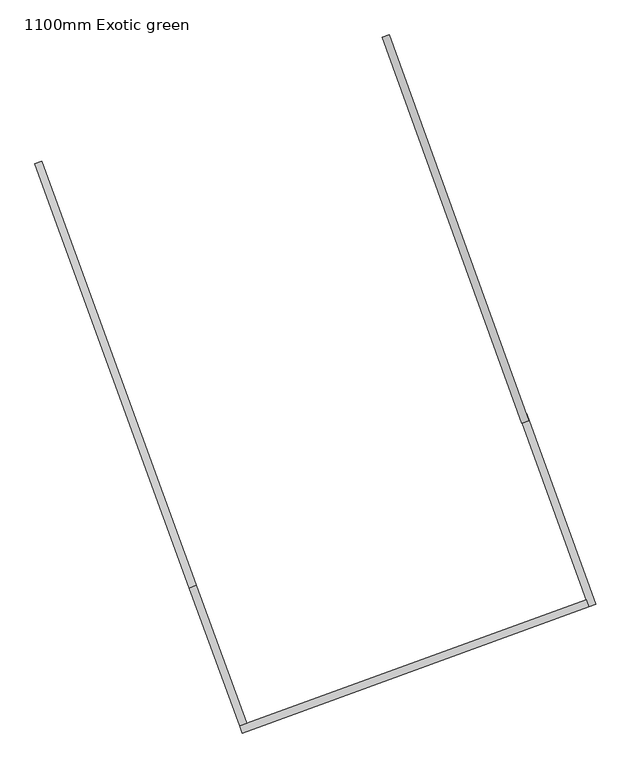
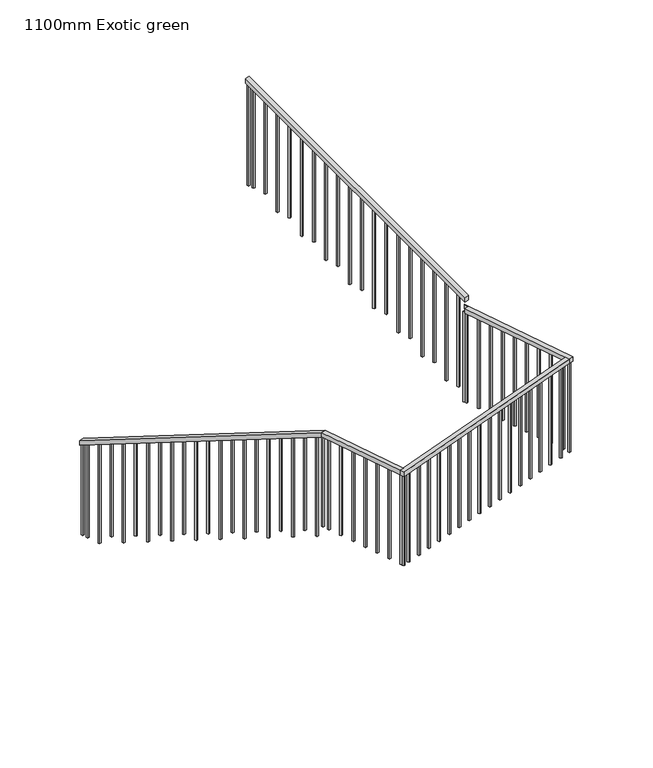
"""IFC4 building model written with IfcOpenShell, lengths in millimetres: railing geometry, 1100mm Exotic green."""

import ifcopenshell
import ifcopenshell.guid

model = None  # the IFC model being written
_history = None  # IfcOwnerHistory: only IFC2X3 demands one
_inside = {}  # id of a spatial element -> (the spatial element, [elements in it])
_under = {}  # id of a project, library or spatial element -> (it, [spatial elements below it])
_declared = {}  # id of a project -> (the project, [libraries it declares])
_typed = {}  # id of a type object -> (the type object, [elements of that type])
_made_of = {}  # id of a material, layer set ... -> (it, [elements and type objects made of it])


def new_model(schema):
    """Start an empty IFC model of exactly this schema.

    Asked for "IFC4X3", IfcOpenShell would pick the latest addendum, in which some entities
    have other attributes; the version numbers below select the first issue.
    IFC2X3 requires an IfcOwnerHistory on every rooted entity: one is made here for all.
    """
    global model, _history
    if schema == "IFC4X3":
        model = ifcopenshell.file(schema_version=(4, 3, 0, 0))
    else:
        model = ifcopenshell.file(schema=schema)
    _inside.clear()
    _under.clear()
    _declared.clear()
    _typed.clear()
    _made_of.clear()
    _history = None
    if model.schema == "IFC2X3":
        org = make("IfcOrganization", Name="unknown")
        user = make(
            "IfcPersonAndOrganization",
            ThePerson=make("IfcPerson", FamilyName="unknown"),
            TheOrganization=org,
        )
        app = make(
            "IfcApplication",
            ApplicationDeveloper=org,
            Version="unknown",
            ApplicationFullName="unknown",
            ApplicationIdentifier="unknown",
        )
        _history = make(
            "IfcOwnerHistory",
            OwningUser=user,
            OwningApplication=app,
            ChangeAction="ADDED",
            CreationDate=0,
        )
    return model


def make(cls, **values):
    """One entity of the class cls with the attributes given. An attribute that is None is left unset."""
    return model.create_entity(
        cls, **{name: value for name, value in values.items() if value is not None}
    )


def rooted(cls, **values):
    """An entity with a GlobalId (a new one), such as an element, a storey or a relation."""
    return make(cls, GlobalId=ifcopenshell.guid.new(), OwnerHistory=_history, **values)


def si_unit(unit_type, name, prefix=None):
    """IfcSIUnit, for example si_unit("LENGTHUNIT", "METRE", prefix="MILLI")."""
    return make("IfcSIUnit", UnitType=unit_type, Prefix=prefix, Name=name)


def assignment(units):
    """IfcUnitAssignment: the units of a project."""
    return None if units is None else make("IfcUnitAssignment", Units=units)


def point(xyz):
    """IfcCartesianPoint."""
    return None if xyz is None else make("IfcCartesianPoint", Coordinates=xyz)


def direction(xyz):
    """IfcDirection."""
    return None if xyz is None else make("IfcDirection", DirectionRatios=xyz)


def frame(location, z_axis=None, x_axis=None):
    """IfcAxis2Placement3D, a coordinate frame: its origin and axes. An axis left out is left unset."""
    return make(
        "IfcAxis2Placement3D",
        Location=point(location),
        Axis=direction(z_axis),
        RefDirection=direction(x_axis),
    )


def origin():
    """The frame at (0, 0, 0) with its axes left unset."""
    return frame((0.0, 0.0, 0.0))


def place(relative_to, where):
    """IfcLocalPlacement: puts the frame where relative to a parent placement (None: the world)."""
    return make(
        "IfcLocalPlacement", PlacementRelTo=relative_to, RelativePlacement=where
    )


def context(
    kind, dimensions, precision=None, world=None, true_north=None, identifier=None
):
    """IfcGeometricRepresentationContext, for example the 3D "Model" context."""
    return make(
        "IfcGeometricRepresentationContext",
        ContextIdentifier=identifier,
        ContextType=kind,
        CoordinateSpaceDimension=dimensions,
        Precision=precision,
        WorldCoordinateSystem=world,
        TrueNorth=true_north,
    )


def project(units=None, contexts=None):
    """IfcProject with its units and contexts."""
    return rooted(
        "IfcProject",
        Name="project",
        RepresentationContexts=contexts,
        UnitsInContext=assignment(units),
    )


def spatial(cls, under=None, at=None, **own):
    """A site, building, storey or space (cls), placed at a placement, below another one or the project."""
    s = rooted(cls, ObjectPlacement=at, **own)
    if under is not None:
        _under.setdefault(under.id(), (under, []))[1].append(s)
    return s


def polyline(points):
    """IfcPolyline through the points."""
    return make("IfcPolyline", Points=[point(p) for p in points])


def outline(outer, holes=None, kind="AREA"):
    """IfcArbitraryClosedProfileDef: a profile drawn as a closed curve; with holes, ...WithVoids."""
    if holes is None:
        return make("IfcArbitraryClosedProfileDef", ProfileType=kind, OuterCurve=outer)
    return make(
        "IfcArbitraryProfileDefWithVoids",
        ProfileType=kind,
        OuterCurve=outer,
        InnerCurves=holes,
    )


def extrude(swept, where, along, depth):
    """IfcExtrudedAreaSolid: the profile swept, set in the frame where, extruded along a direction by depth."""
    return make(
        "IfcExtrudedAreaSolid",
        SweptArea=swept,
        Position=where,
        ExtrudedDirection=direction(along),
        Depth=depth,
    )


def shape(context_of_items, identifier, shape_type, items):
    """IfcShapeRepresentation: the items that make up one representation, for example the "Body"."""
    return make(
        "IfcShapeRepresentation",
        ContextOfItems=context_of_items,
        RepresentationIdentifier=identifier,
        RepresentationType=shape_type,
        Items=items,
    )


def source(mapping_origin, context_of_items, identifier, shape_type, items):
    """IfcRepresentationMap: a shape defined once, which mapped items show again and again."""
    return make(
        "IfcRepresentationMap",
        MappingOrigin=mapping_origin,
        MappedRepresentation=shape(context_of_items, identifier, shape_type, items),
    )


def transform(
    local_origin,
    x_axis=None,
    y_axis=None,
    z_axis=None,
    scale=None,
    scale2=None,
    scale3=None,
    uniform=True,
):
    """IfcCartesianTransformationOperator3D, or its non-uniform kind. x_axis, y_axis, z_axis: its Axis1, 2, 3."""
    if uniform:
        return make(
            "IfcCartesianTransformationOperator3D",
            Axis1=direction(x_axis),
            Axis2=direction(y_axis),
            LocalOrigin=point(local_origin),
            Scale=scale,
            Axis3=direction(z_axis),
        )
    return make(
        "IfcCartesianTransformationOperator3DnonUniform",
        Axis1=direction(x_axis),
        Axis2=direction(y_axis),
        LocalOrigin=point(local_origin),
        Scale=scale,
        Axis3=direction(z_axis),
        Scale2=scale2,
        Scale3=scale3,
    )


def mapped(mapping_source, mapping_target):
    """IfcMappedItem: shows the shape of a source again, moved by a transform."""
    return make(
        "IfcMappedItem", MappingSource=mapping_source, MappingTarget=mapping_target
    )


def made_of(thing, what):
    """Note that an element or type object is made of a material, layer set ...; save() writes the relation."""
    if what is not None:
        _made_of.setdefault(what.id(), (what, []))[1].append(thing)
    return thing


def element(
    cls,
    number,
    at=None,
    inside=None,
    cuts=None,
    type_object=None,
    material=None,
    context=None,
    identifier="Body",
    shape_type=None,
    held_by="IfcProductDefinitionShape",
    body=None,
    shapes=None,
    **own,
):
    """One element of the class cls, such as IfcWall. Its Tag is "e" and its number.

    at: its placement. inside: the storey or other place that contains it. cuts: it is an
    opening in that element (IfcRelVoidsElement). A single representation is given by context,
    identifier, shape_type and body (its items); several are given by shapes. held_by: the class
    of the entity that holds the representations. save() writes the other relations.
    """
    e = rooted(cls, Tag="e%d" % number, ObjectPlacement=at, **own)
    if body is not None:
        shapes = [shape(context, identifier, shape_type, body)]
    if shapes is not None:
        e.Representation = make(held_by, Representations=shapes)
    if inside is not None:
        _inside.setdefault(inside.id(), (inside, []))[1].append(e)
    if cuts is not None:
        rooted(
            "IfcRelVoidsElement", RelatingBuildingElement=cuts, RelatedOpeningElement=e
        )
    if type_object is not None:
        _typed.setdefault(type_object.id(), (type_object, []))[1].append(e)
    return made_of(e, material)


def aggregate(whole, parts):
    """IfcRelAggregates: a whole, such as a stair, and the parts it consists of."""
    return rooted("IfcRelAggregates", RelatingObject=whole, RelatedObjects=parts)


def save(model, path):
    """Write the relations noted so far, then the file.

    IfcRelAggregates (storeys below a building ...), IfcRelContainedInSpatialStructure (elements
    in a storey), IfcRelDefinesByType, IfcRelAssociatesMaterial and IfcRelDeclares: one each for
    every whole, place, type object, material and project.
    """
    for whole, parts in _under.values():
        aggregate(whole, parts)
    for where, things in _inside.values():
        rooted(
            "IfcRelContainedInSpatialStructure",
            RelatedElements=things,
            RelatingStructure=where,
        )
    for kind, things in _typed.values():
        rooted("IfcRelDefinesByType", RelatedObjects=things, RelatingType=kind)
    for what, things in _made_of.values():
        rooted("IfcRelAssociatesMaterial", RelatedObjects=things, RelatingMaterial=what)
    for by, libraries in _declared.values():
        rooted("IfcRelDeclares", RelatingContext=by, RelatedDefinitions=libraries)
    model.write(path)


def railing_1100mm_exotic_green_fe699bc2(model_context):
    return source(origin(), model_context, "Body", "SweptSolid", [
        extrude(outline(polyline([(35694.4583441, 8830.9923502), (35741.4429086, 8848.0935403), (36074.7793062, 7932.27041), (36027.7947418, 7915.1692199), (35694.4583441, 8830.9923502)])), frame((0.0, 0.0, 10237.1428571), z_axis=(0.0, 0.0, 1.0), x_axis=(1.0, 0.0, 0.0)), (0.0, 0.0, 1.0), 50.0),
        extrude(outline(polyline([(36044.8959319, 7868.1846554), (36027.7947418, 7915.1692199), (38330.1177664, 8753.1564228), (38347.1339466, 8706.1409169), (36044.8959319, 7868.1846554)])), frame((0.0, 0.0, 10237.1428571), z_axis=(0.0, 0.0, 1.0), x_axis=(1.0, 0.0, 0.0)), (0.0, 0.0, 1.0), 50.0),
        extrude(outline(polyline([(38394.1185879, 8723.242135), (38347.1339466, 8706.1409169), (37905.6473611, 9925.9631661), (37952.6627901, 9942.9793184), (38394.1185879, 8723.242135)])), frame((0.0, 0.0, 10237.1428571), z_axis=(0.0, 0.0, 1.0), x_axis=(1.0, 0.0, 0.0)), (0.0, 0.0, 1.0), 50.0),
        extrude(outline(polyline([(37935.6466377, 9989.9947474), (37952.6627901, 9942.9793184), (37949.6644314, 9941.8941315), (37932.648279, 9988.9095605), (37935.6466377, 9989.9947474)])), frame((0.0, 0.0, 10237.1428571), z_axis=(0.0, 0.0, 1.0), x_axis=(1.0, 0.0, 0.0)), (0.0, 0.0, 1.0), 50.0),
        extrude(outline(polyline([(-24.0476191, -50.0), (0.0, 0.0), (3024.2303719, 0.0), (3000.1827528, -50.0), (-24.0476191, -50.0)])), frame((37902.6490024, 9924.8779792, 10419.212381), z_axis=(0.9403085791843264, 0.34032304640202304, 0.0), x_axis=(-0.30669503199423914, 0.8473947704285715, 0.4334284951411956)), (0.0, 0.0, 1.0), 50.0),
        extrude(outline(polyline([(24.0476191, -50.0), (0.0, 0.0), (3328.9376083, 0.0), (3352.9852273, -50.0000001), (24.0476191, -50.0)])), frame((34668.3874528, 11650.064801, 8788.8033929), z_axis=(0.9396912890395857, 0.3420238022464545, 0.0), x_axis=(0.30822773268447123, -0.8468384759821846, 0.43342849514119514)), (0.0, 0.0, 1.0), 50.0),
        extrude(outline(polyline([(1258.0219048, -20.0), (104.8095238, -20.0), (95.1904762, 0.0), (1258.0219048, 0.0), (1258.0219048, -20.0)])), frame((37011.4943277, 12431.2036455, 11743.7361905), z_axis=(0.9403085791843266, 0.3403230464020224, 0.0), x_axis=(0.0, 0.0, -1.0)), (0.0, 0.0, 1.0), 20.0),
        extrude(outline(polyline([(1185.8790476, -20.0), (104.8095238, -20.0), (95.1904762, 0.0), (1185.8790476, 0.0), (1185.8790476, -20.0)])), frame((37062.5427846, 12290.1573586, 11671.5933333), z_axis=(0.9403085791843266, 0.3403230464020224, 0.0), x_axis=(0.0, 0.0, -1.0)), (0.0, 0.0, 1.0), 20.0),
        extrude(outline(polyline([(1258.0219048, -19.9999999), (104.8095238, -19.9999999), (95.1904762, 0.0), (1258.0219048, 0.0), (1258.0219048, -19.9999999)])), frame((37113.5912416, 12149.1110717, 11599.4504762), z_axis=(0.9403085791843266, 0.3403230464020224, 0.0), x_axis=(0.0, 0.0, -1.0)), (0.0, 0.0, 1.0), 20.0),
        extrude(outline(polyline([(1185.8790476, -20.0), (104.8095238, -20.0), (95.1904761, 0.0), (1185.8790476, 0.0), (1185.8790476, -20.0)])), frame((37164.6396985, 12008.0647849, 11527.307619), z_axis=(0.9403085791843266, 0.3403230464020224, 0.0), x_axis=(0.0, 0.0, -1.0)), (0.0, 0.0, 1.0), 20.0),
        extrude(outline(polyline([(1258.0219048, -20.0), (104.8095238, -20.0), (95.1904762, 0.0), (1258.0219048, 0.0), (1258.0219048, -20.0)])), frame((37215.6881555, 11867.018498, 11455.1647619), z_axis=(0.9403085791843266, 0.3403230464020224, 0.0), x_axis=(0.0, 0.0, -1.0)), (0.0, 0.0, 1.0), 20.0),
        extrude(outline(polyline([(1185.8790477, -20.0), (104.8095238, -20.0), (95.1904762, 0.0), (1185.8790477, 0.0), (1185.8790477, -20.0)])), frame((37266.7366125, 11725.9722111, 11383.0219048), z_axis=(0.9403085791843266, 0.3403230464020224, 0.0), x_axis=(0.0, 0.0, -1.0)), (0.0, 0.0, 1.0), 20.0),
        extrude(outline(polyline([(1258.0219047, -19.9999999), (104.8095238, -19.9999999), (95.1904762, 0.0), (1258.0219047, 0.0), (1258.0219047, -19.9999999)])), frame((37317.7850694, 11584.9259242, 11310.8790476), z_axis=(0.9403085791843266, 0.3403230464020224, 0.0), x_axis=(0.0, 0.0, -1.0)), (0.0, 0.0, 1.0), 20.0),
        extrude(outline(polyline([(1185.8790476, -20.0), (104.8095238, -20.0), (95.1904762, 0.0), (1185.8790476, 0.0), (1185.8790476, -20.0)])), frame((37368.8335264, 11443.8796374, 11238.7361905), z_axis=(0.9403085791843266, 0.3403230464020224, 0.0), x_axis=(0.0, 0.0, -1.0)), (0.0, 0.0, 1.0), 20.0),
        extrude(outline(polyline([(1258.0219047, -20.0), (104.8095238, -20.0), (95.1904762, 0.0), (1258.0219047, 0.0), (1258.0219047, -20.0)])), frame((37419.8819833, 11302.8333505, 11166.5933333), z_axis=(0.9403085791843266, 0.3403230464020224, 0.0), x_axis=(0.0, 0.0, -1.0)), (0.0, 0.0, 1.0), 20.0),
        extrude(outline(polyline([(1185.8790476, -20.0), (104.8095238, -20.0), (95.1904762, 0.0), (1185.8790476, 0.0), (1185.8790476, -20.0)])), frame((37470.9304403, 11161.7870636, 11094.4504762), z_axis=(0.9403085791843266, 0.3403230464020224, 0.0), x_axis=(0.0, 0.0, -1.0)), (0.0, 0.0, 1.0), 20.0),
        extrude(outline(polyline([(1258.0219047, -20.0), (104.8095238, -20.0), (95.1904761, 0.0), (1258.0219047, 0.0), (1258.0219047, -20.0)])), frame((37521.9788973, 11020.7407767, 11022.307619), z_axis=(0.9403085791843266, 0.3403230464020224, 0.0), x_axis=(0.0, 0.0, -1.0)), (0.0, 0.0, 1.0), 20.0),
        extrude(outline(polyline([(1185.8790476, -19.9999999), (104.8095238, -19.9999999), (95.1904762, 0.0), (1185.8790476, 0.0), (1185.8790476, -19.9999999)])), frame((37573.0273542, 10879.6944898, 10950.1647619), z_axis=(0.9403085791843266, 0.3403230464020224, 0.0), x_axis=(0.0, 0.0, -1.0)), (0.0, 0.0, 1.0), 20.0),
        extrude(outline(polyline([(1258.0219048, -20.0), (104.8095238, -20.0), (95.1904762, 0.0), (1258.0219048, 0.0), (1258.0219048, -20.0)])), frame((37624.0758112, 10738.648203, 10878.0219048), z_axis=(0.9403085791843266, 0.3403230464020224, 0.0), x_axis=(0.0, 0.0, -1.0)), (0.0, 0.0, 1.0), 20.0),
        extrude(outline(polyline([(1185.8790476, -20.0), (104.8095238, -20.0), (95.1904762, 0.0), (1185.8790476, 0.0), (1185.8790476, -20.0)])), frame((37675.1242682, 10597.6019161, 10805.8790476), z_axis=(0.9403085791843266, 0.3403230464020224, 0.0), x_axis=(0.0, 0.0, -1.0)), (0.0, 0.0, 1.0), 20.0),
        extrude(outline(polyline([(1258.0219048, -20.0), (104.8095238, -20.0), (95.1904762, 0.0), (1258.0219048, 0.0), (1258.0219048, -20.0)])), frame((37726.1727251, 10456.5556292, 10733.7361905), z_axis=(0.9403085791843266, 0.3403230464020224, 0.0), x_axis=(0.0, 0.0, -1.0)), (0.0, 0.0, 1.0), 20.0),
        extrude(outline(polyline([(1185.8790476, -19.9999999), (104.8095238, -19.9999999), (95.1904762, 0.0), (1185.8790476, 0.0), (1185.8790476, -19.9999999)])), frame((37777.2211821, 10315.5093423, 10661.5933333), z_axis=(0.9403085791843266, 0.3403230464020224, 0.0), x_axis=(0.0, 0.0, -1.0)), (0.0, 0.0, 1.0), 20.0),
        extrude(outline(polyline([(1258.0219048, -20.0), (104.8095238, -20.0), (95.1904762, 0.0), (1258.0219048, 0.0), (1258.0219048, -20.0)])), frame((37828.269639, 10174.4630555, 10589.4504762), z_axis=(0.9403085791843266, 0.3403230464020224, 0.0), x_axis=(0.0, 0.0, -1.0)), (0.0, 0.0, 1.0), 20.0),
        extrude(outline(polyline([(1185.8790476, -20.0), (104.8095238, -20.0), (95.1904761, 0.0), (1185.8790476, 0.0), (1185.8790476, -20.0)])), frame((37879.318096, 10033.4167686, 10517.307619), z_axis=(0.9403085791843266, 0.3403230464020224, 0.0), x_axis=(0.0, 0.0, -1.0)), (0.0, 0.0, 1.0), 20.0),
        extrude(outline(polyline([(37941.0126093, 9931.092862), (37922.2064377, 9924.2864011), (37915.3999768, 9943.0925727), (37934.2061483, 9949.8990336), (37941.0126093, 9931.092862)])), frame((0.0, 0.0, 9187.1428571), z_axis=(0.0, 0.0, 1.0), x_axis=(1.0, 0.0, 0.0)), (0.0, 0.0, 1.0), 1050.0),
        extrude(outline(polyline([(37992.0610662, 9790.0465751), (37973.2548946, 9783.2401142), (37966.4484337, 9802.0462858), (37985.2546053, 9808.8527467), (37992.0610662, 9790.0465751)])), frame((0.0, 0.0, 9187.1428571), z_axis=(0.0, 0.0, 1.0), x_axis=(1.0, 0.0, 0.0)), (0.0, 0.0, 1.0), 1050.0),
        extrude(outline(polyline([(38043.1095232, 9649.0002883), (38024.3033516, 9642.1938273), (38017.4968907, 9660.9999989), (38036.3030623, 9667.8064598), (38043.1095232, 9649.0002883)])), frame((0.0, 0.0, 9187.1428571), z_axis=(0.0, 0.0, 1.0), x_axis=(1.0, 0.0, 0.0)), (0.0, 0.0, 1.0), 1050.0),
        extrude(outline(polyline([(38094.1579801, 9507.9540014), (38075.3518086, 9501.1475404), (38068.5453476, 9519.953712), (38087.3515192, 9526.760173), (38094.1579801, 9507.9540014)])), frame((0.0, 0.0, 9187.1428571), z_axis=(0.0, 0.0, 1.0), x_axis=(1.0, 0.0, 0.0)), (0.0, 0.0, 1.0), 1050.0),
        extrude(outline(polyline([(38145.2064371, 9366.9077145), (38126.4002655, 9360.1012536), (38119.5938046, 9378.9074252), (38138.3999762, 9385.7138861), (38145.2064371, 9366.9077145)])), frame((0.0, 0.0, 9187.1428571), z_axis=(0.0, 0.0, 1.0), x_axis=(1.0, 0.0, 0.0)), (0.0, 0.0, 1.0), 1050.0),
        extrude(outline(polyline([(38196.2548941, 9225.8614276), (38177.4487225, 9219.0549667), (38170.6422616, 9237.8611383), (38189.4484331, 9244.6675992), (38196.2548941, 9225.8614276)])), frame((0.0, 0.0, 9187.1428571), z_axis=(0.0, 0.0, 1.0), x_axis=(1.0, 0.0, 0.0)), (0.0, 0.0, 1.0), 1050.0),
        extrude(outline(polyline([(38247.303351, 9084.8151407), (38228.4971794, 9078.0086798), (38221.6907185, 9096.8148514), (38240.4968901, 9103.6213123), (38247.303351, 9084.8151407)])), frame((0.0, 0.0, 9187.1428571), z_axis=(0.0, 0.0, 1.0), x_axis=(1.0, 0.0, 0.0)), (0.0, 0.0, 1.0), 1050.0),
        extrude(outline(polyline([(38298.351808, 8943.7688539), (38279.5456364, 8936.9623929), (38272.7391755, 8955.7685645), (38291.5453471, 8962.5750254), (38298.351808, 8943.7688539)])), frame((0.0, 0.0, 9187.1428571), z_axis=(0.0, 0.0, 1.0), x_axis=(1.0, 0.0, 0.0)), (0.0, 0.0, 1.0), 1050.0),
        extrude(outline(polyline([(38349.400265, 8802.722567), (38330.5940934, 8795.9161061), (38323.7876324, 8814.7222776), (38342.593804, 8821.5287386), (38349.400265, 8802.722567)])), frame((0.0, 0.0, 9187.1428571), z_axis=(0.0, 0.0, 1.0), x_axis=(1.0, 0.0, 0.0)), (0.0, 0.0, 1.0), 1050.0),
        extrude(outline(polyline([(38238.6431912, 8682.615722), (38231.8027152, 8701.4095478), (38250.5965409, 8708.2500238), (38257.437017, 8689.4561981), (38238.6431912, 8682.615722)])), frame((0.0, 0.0, 9187.1428571), z_axis=(0.0, 0.0, 1.0), x_axis=(1.0, 0.0, 0.0)), (0.0, 0.0, 1.0), 1050.0),
        extrude(outline(polyline([(38097.6894978, 8631.3121517), (38090.8490218, 8650.1059775), (38109.6428476, 8656.9464535), (38116.4833236, 8638.1526277), (38097.6894978, 8631.3121517)])), frame((0.0, 0.0, 9187.1428571), z_axis=(0.0, 0.0, 1.0), x_axis=(1.0, 0.0, 0.0)), (0.0, 0.0, 1.0), 1050.0),
        extrude(outline(polyline([(37956.7358045, 8580.0085813), (37949.8953284, 8598.8024071), (37968.6891542, 8605.6428832), (37975.5296303, 8586.8490574), (37956.7358045, 8580.0085813)])), frame((0.0, 0.0, 9187.1428571), z_axis=(0.0, 0.0, 1.0), x_axis=(1.0, 0.0, 0.0)), (0.0, 0.0, 1.0), 1050.0),
        extrude(outline(polyline([(37815.7821111, 8528.705011), (37808.9416351, 8547.4988368), (37827.7354609, 8554.3393128), (37834.5759369, 8535.5454871), (37815.7821111, 8528.705011)])), frame((0.0, 0.0, 9187.1428571), z_axis=(0.0, 0.0, 1.0), x_axis=(1.0, 0.0, 0.0)), (0.0, 0.0, 1.0), 1050.0),
        extrude(outline(polyline([(37674.8284178, 8477.4014407), (37667.9879417, 8496.1952665), (37686.7817675, 8503.0357425), (37693.6222436, 8484.2419167), (37674.8284178, 8477.4014407)])), frame((0.0, 0.0, 9187.1428571), z_axis=(0.0, 0.0, 1.0), x_axis=(1.0, 0.0, 0.0)), (0.0, 0.0, 1.0), 1050.0),
        extrude(outline(polyline([(37533.8747244, 8426.0978703), (37527.0342484, 8444.8916961), (37545.8280742, 8451.7321722), (37552.6685502, 8432.9383464), (37533.8747244, 8426.0978703)])), frame((0.0, 0.0, 9187.1428571), z_axis=(0.0, 0.0, 1.0), x_axis=(1.0, 0.0, 0.0)), (0.0, 0.0, 1.0), 1050.0),
        extrude(outline(polyline([(37392.9210311, 8374.7943), (37386.080555, 8393.5881258), (37404.8743808, 8400.4286018), (37411.7148568, 8381.634776), (37392.9210311, 8374.7943)])), frame((0.0, 0.0, 9187.1428571), z_axis=(0.0, 0.0, 1.0), x_axis=(1.0, 0.0, 0.0)), (0.0, 0.0, 1.0), 1050.0),
        extrude(outline(polyline([(37251.9673377, 8323.4907297), (37245.1268617, 8342.2845554), (37263.9206874, 8349.1250315), (37270.7611635, 8330.3312057), (37251.9673377, 8323.4907297)])), frame((0.0, 0.0, 9187.1428571), z_axis=(0.0, 0.0, 1.0), x_axis=(1.0, 0.0, 0.0)), (0.0, 0.0, 1.0), 1050.0),
        extrude(outline(polyline([(37111.0136444, 8272.1871593), (37104.1731683, 8290.9809851), (37122.9669941, 8297.8214612), (37129.8074701, 8279.0276354), (37111.0136444, 8272.1871593)])), frame((0.0, 0.0, 9187.1428571), z_axis=(0.0, 0.0, 1.0), x_axis=(1.0, 0.0, 0.0)), (0.0, 0.0, 1.0), 1050.0),
        extrude(outline(polyline([(36970.059951, 8220.883589), (36963.219475, 8239.6774148), (36982.0133007, 8246.5178908), (36988.8537768, 8227.724065), (36970.059951, 8220.883589)])), frame((0.0, 0.0, 9187.1428571), z_axis=(0.0, 0.0, 1.0), x_axis=(1.0, 0.0, 0.0)), (0.0, 0.0, 1.0), 1050.0),
        extrude(outline(polyline([(36829.1062576, 8169.5800187), (36822.2657816, 8188.3738444), (36841.0596074, 8195.2143205), (36847.9000834, 8176.4204947), (36829.1062576, 8169.5800187)])), frame((0.0, 0.0, 9187.1428571), z_axis=(0.0, 0.0, 1.0), x_axis=(1.0, 0.0, 0.0)), (0.0, 0.0, 1.0), 1050.0),
        extrude(outline(polyline([(36688.1525643, 8118.2764483), (36681.3120882, 8137.0702741), (36700.105914, 8143.9107501), (36706.9463901, 8125.1169244), (36688.1525643, 8118.2764483)])), frame((0.0, 0.0, 9187.1428571), z_axis=(0.0, 0.0, 1.0), x_axis=(1.0, 0.0, 0.0)), (0.0, 0.0, 1.0), 1050.0),
        extrude(outline(polyline([(36547.1988709, 8066.972878), (36540.3583949, 8085.7667038), (36559.1522207, 8092.6071798), (36565.9926967, 8073.813354), (36547.1988709, 8066.972878)])), frame((0.0, 0.0, 9187.1428571), z_axis=(0.0, 0.0, 1.0), x_axis=(1.0, 0.0, 0.0)), (0.0, 0.0, 1.0), 1050.0),
        extrude(outline(polyline([(36406.2451776, 8015.6693076), (36399.4047015, 8034.4631334), (36418.1985273, 8041.3036095), (36425.0390034, 8022.5097837), (36406.2451776, 8015.6693076)])), frame((0.0, 0.0, 9187.1428571), z_axis=(0.0, 0.0, 1.0), x_axis=(1.0, 0.0, 0.0)), (0.0, 0.0, 1.0), 1050.0),
        extrude(outline(polyline([(36265.2914842, 7964.3657373), (36258.4510082, 7983.1595631), (36277.244834, 7990.0000391), (36284.08531, 7971.2062134), (36265.2914842, 7964.3657373)])), frame((0.0, 0.0, 9187.1428571), z_axis=(0.0, 0.0, 1.0), x_axis=(1.0, 0.0, 0.0)), (0.0, 0.0, 1.0), 1050.0),
        extrude(outline(polyline([(36124.3377909, 7913.062167), (36117.4973148, 7931.8559928), (36136.2911406, 7938.6964688), (36143.1316166, 7919.902643), (36124.3377909, 7913.062167)])), frame((0.0, 0.0, 9187.1428571), z_axis=(0.0, 0.0, 1.0), x_axis=(1.0, 0.0, 0.0)), (0.0, 0.0, 1.0), 1050.0),
        extrude(outline(polyline([(36038.6066826, 7929.3206133), (36057.4005084, 7936.1610893), (36064.2409844, 7917.3672636), (36045.4471586, 7910.5267875), (36038.6066826, 7929.3206133)])), frame((0.0, 0.0, 9187.1428571), z_axis=(0.0, 0.0, 1.0), x_axis=(1.0, 0.0, 0.0)), (0.0, 0.0, 1.0), 1050.0),
        extrude(outline(polyline([(35987.3031123, 8070.2743066), (36006.096938, 8077.1147827), (36012.9374141, 8058.3209569), (35994.1435883, 8051.4804809), (35987.3031123, 8070.2743066)])), frame((0.0, 0.0, 9187.1428571), z_axis=(0.0, 0.0, 1.0), x_axis=(1.0, 0.0, 0.0)), (0.0, 0.0, 1.0), 1050.0),
        extrude(outline(polyline([(35935.9995419, 8211.228), (35954.7933677, 8218.068476), (35961.6338438, 8199.2746503), (35942.840018, 8192.4341742), (35935.9995419, 8211.228)])), frame((0.0, 0.0, 9187.1428571), z_axis=(0.0, 0.0, 1.0), x_axis=(1.0, 0.0, 0.0)), (0.0, 0.0, 1.0), 1050.0),
        extrude(outline(polyline([(35884.6959716, 8352.1816934), (35903.4897974, 8359.0221694), (35910.3302734, 8340.2283436), (35891.5364476, 8333.3878676), (35884.6959716, 8352.1816934)])), frame((0.0, 0.0, 9187.1428571), z_axis=(0.0, 0.0, 1.0), x_axis=(1.0, 0.0, 0.0)), (0.0, 0.0, 1.0), 1050.0),
        extrude(outline(polyline([(35833.3924013, 8493.1353867), (35852.186227, 8499.9758628), (35859.0267031, 8481.182037), (35840.2328773, 8474.3415609), (35833.3924013, 8493.1353867)])), frame((0.0, 0.0, 9187.1428571), z_axis=(0.0, 0.0, 1.0), x_axis=(1.0, 0.0, 0.0)), (0.0, 0.0, 1.0), 1050.0),
        extrude(outline(polyline([(35782.0888309, 8634.0890801), (35800.8826567, 8640.9295561), (35807.7231327, 8622.1357303), (35788.929307, 8615.2952543), (35782.0888309, 8634.0890801)])), frame((0.0, 0.0, 9187.1428571), z_axis=(0.0, 0.0, 1.0), x_axis=(1.0, 0.0, 0.0)), (0.0, 0.0, 1.0), 1050.0),
        extrude(outline(polyline([(35730.7852606, 8775.0427734), (35749.5790864, 8781.8832495), (35756.4195624, 8763.0894237), (35737.6257366, 8756.2489476), (35730.7852606, 8775.0427734)])), frame((0.0, 0.0, 9187.1428571), z_axis=(0.0, 0.0, 1.0), x_axis=(1.0, 0.0, 0.0)), (0.0, 0.0, 1.0), 1050.0),
        extrude(outline(polyline([(104.8095238, 0.0), (1258.2142857, 0.0), (1258.2142857, -20.0), (95.1904762, -20.0), (104.8095238, 0.0)])), frame((35679.4822057, 8915.9950505, 10301.0714286), z_axis=(0.9396912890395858, 0.34202380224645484, 0.0), x_axis=(0.0, 0.0, -1.0)), (0.0, 0.0, 1.0), 20.0),
        extrude(outline(polyline([(104.8095238, 0.0), (1186.0714285, 0.0), (1186.0714285, -20.0), (95.1904762, -20.0), (104.8095238, 0.0)])), frame((35628.1786354, 9056.9487439, 10228.9285714), z_axis=(0.9396912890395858, 0.34202380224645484, 0.0), x_axis=(0.0, 0.0, -1.0)), (0.0, 0.0, 1.0), 20.0),
        extrude(outline(polyline([(104.8095238, 0.0), (1258.2142857, 0.0), (1258.2142857, -20.0), (95.1904762, -20.0), (104.8095238, 0.0)])), frame((35576.8750651, 9197.9024372, 10156.7857143), z_axis=(0.9396912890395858, 0.34202380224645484, 0.0), x_axis=(0.0, 0.0, -1.0)), (0.0, 0.0, 1.0), 20.0),
        extrude(outline(polyline([(104.8095238, 0.0), (1186.0714285, 0.0), (1186.0714285, -20.0), (95.1904761, -20.0), (104.8095238, 0.0)])), frame((35525.5714947, 9338.8561306, 10084.6428571), z_axis=(0.9396912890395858, 0.34202380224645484, 0.0), x_axis=(0.0, 0.0, -1.0)), (0.0, 0.0, 1.0), 20.0),
        extrude(outline(polyline([(104.8095238, 0.0), (1258.2142857, 0.0), (1258.2142857, -19.9999999), (95.1904762, -19.9999999), (104.8095238, 0.0)])), frame((35474.2679244, 9479.8098239, 10012.5), z_axis=(0.9396912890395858, 0.34202380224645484, 0.0), x_axis=(0.0, 0.0, -1.0)), (0.0, 0.0, 1.0), 20.0),
        extrude(outline(polyline([(104.8095239, 0.0), (1186.0714286, 0.0), (1186.0714286, -20.0), (95.1904762, -20.0), (104.8095239, 0.0)])), frame((35422.964354, 9620.7635173, 9940.3571429), z_axis=(0.9396912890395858, 0.34202380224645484, 0.0), x_axis=(0.0, 0.0, -1.0)), (0.0, 0.0, 1.0), 20.0),
        extrude(outline(polyline([(104.8095238, 0.0), (1258.2142857, 0.0), (1258.2142857, -19.9999999), (95.1904762, -19.9999999), (104.8095238, 0.0)])), frame((35371.6607837, 9761.7172106, 9868.2142857), z_axis=(0.9396912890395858, 0.34202380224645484, 0.0), x_axis=(0.0, 0.0, -1.0)), (0.0, 0.0, 1.0), 20.0),
        extrude(outline(polyline([(104.8095238, 0.0), (1186.0714286, 0.0), (1186.0714286, -20.0), (95.1904762, -20.0), (104.8095238, 0.0)])), frame((35320.3572134, 9902.670904, 9796.0714286), z_axis=(0.9396912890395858, 0.34202380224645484, 0.0), x_axis=(0.0, 0.0, -1.0)), (0.0, 0.0, 1.0), 20.0),
        extrude(outline(polyline([(104.8095238, 0.0), (1258.2142857, 0.0), (1258.2142857, -20.0), (95.1904762, -20.0), (104.8095238, 0.0)])), frame((35269.053643, 10043.6245974, 9723.9285714), z_axis=(0.9396912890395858, 0.34202380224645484, 0.0), x_axis=(0.0, 0.0, -1.0)), (0.0, 0.0, 1.0), 20.0),
        extrude(outline(polyline([(104.8095238, 0.0), (1186.0714286, 0.0), (1186.0714286, -20.0), (95.1904762, -20.0), (104.8095238, 0.0)])), frame((35217.7500727, 10184.5782907, 9651.7857143), z_axis=(0.9396912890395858, 0.34202380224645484, 0.0), x_axis=(0.0, 0.0, -1.0)), (0.0, 0.0, 1.0), 20.0),
        extrude(outline(polyline([(104.8095238, 0.0), (1258.2142857, 0.0), (1258.2142857, -20.0), (95.1904761, -20.0), (104.8095238, 0.0)])), frame((35166.4465024, 10325.5319841, 9579.6428571), z_axis=(0.9396912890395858, 0.34202380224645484, 0.0), x_axis=(0.0, 0.0, -1.0)), (0.0, 0.0, 1.0), 20.0),
        extrude(outline(polyline([(104.8095238, 0.0), (1186.0714286, 0.0), (1186.0714286, -20.0), (95.1904762, -20.0), (104.8095238, 0.0)])), frame((35115.142932, 10466.4856774, 9507.5), z_axis=(0.9396912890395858, 0.34202380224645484, 0.0), x_axis=(0.0, 0.0, -1.0)), (0.0, 0.0, 1.0), 20.0),
        extrude(outline(polyline([(104.8095239, 0.0), (1258.2142858, 0.0), (1258.2142858, -20.0), (95.1904762, -20.0), (104.8095239, 0.0)])), frame((35063.8393617, 10607.4393708, 9435.3571429), z_axis=(0.9396912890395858, 0.34202380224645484, 0.0), x_axis=(0.0, 0.0, -1.0)), (0.0, 0.0, 1.0), 20.0),
        extrude(outline(polyline([(104.8095238, 0.0), (1186.0714286, 0.0), (1186.0714286, -19.9999999), (95.1904762, -19.9999999), (104.8095238, 0.0)])), frame((35012.5357914, 10748.3930641, 9363.2142857), z_axis=(0.9396912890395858, 0.34202380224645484, 0.0), x_axis=(0.0, 0.0, -1.0)), (0.0, 0.0, 1.0), 20.0),
        extrude(outline(polyline([(104.8095238, 0.0), (1258.2142857, 0.0), (1258.2142857, -20.0), (95.1904762, -20.0), (104.8095238, 0.0)])), frame((34961.232221, 10889.3467575, 9291.0714286), z_axis=(0.9396912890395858, 0.34202380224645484, 0.0), x_axis=(0.0, 0.0, -1.0)), (0.0, 0.0, 1.0), 20.0),
        extrude(outline(polyline([(104.8095238, 0.0), (1186.0714285, 0.0), (1186.0714285, -20.0), (95.1904762, -20.0), (104.8095238, 0.0)])), frame((34909.9286507, 11030.3004509, 9218.9285714), z_axis=(0.9396912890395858, 0.34202380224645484, 0.0), x_axis=(0.0, 0.0, -1.0)), (0.0, 0.0, 1.0), 20.0),
        extrude(outline(polyline([(104.8095238, 0.0), (1258.2142857, 0.0), (1258.2142857, -20.0), (95.1904762, -20.0), (104.8095238, 0.0)])), frame((34858.6250803, 11171.2541442, 9146.7857143), z_axis=(0.9396912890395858, 0.34202380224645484, 0.0), x_axis=(0.0, 0.0, -1.0)), (0.0, 0.0, 1.0), 20.0),
        extrude(outline(polyline([(104.8095238, 0.0), (1186.0714285, 0.0), (1186.0714285, -20.0), (95.1904761, -20.0), (104.8095238, 0.0)])), frame((34807.32151, 11312.2078376, 9074.6428571), z_axis=(0.9396912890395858, 0.34202380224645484, 0.0), x_axis=(0.0, 0.0, -1.0)), (0.0, 0.0, 1.0), 20.0),
        extrude(outline(polyline([(104.8095238, 0.0), (1258.2142857, 0.0), (1258.2142857, -20.0), (95.1904762, -20.0), (104.8095238, 0.0)])), frame((34756.0179397, 11453.1615309, 9002.5), z_axis=(0.9396912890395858, 0.34202380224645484, 0.0), x_axis=(0.0, 0.0, -1.0)), (0.0, 0.0, 1.0), 20.0),
        extrude(outline(polyline([(104.8095239, 0.0), (1186.0714286, 0.0), (1186.0714286, -20.0), (95.1904762, -20.0), (104.8095239, 0.0)])), frame((34704.7143693, 11594.1152243, 8930.3571429), z_axis=(0.9396912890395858, 0.34202380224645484, 0.0), x_axis=(0.0, 0.0, -1.0)), (0.0, 0.0, 1.0), 20.0),
        extrude(outline(polyline([(37923.6484961, 9969.7000861), (37930.454957, 9950.8939145), (37911.6487854, 9944.0874536), (37904.8423245, 9962.8936251), (37923.6484961, 9969.7000861)])), frame((0.0, 0.0, 9187.1428571), z_axis=(0.0, 0.0, 1.0), x_axis=(1.0, 0.0, 0.0)), (0.0, 0.0, 1.0), 1050.0),
        extrude(outline(polyline([(37933.4533157, 9951.9791014), (37914.6471441, 9945.1726405), (37907.8406832, 9963.9788121), (37926.6468547, 9970.785273), (37933.4533157, 9951.9791014)])), frame((0.0, 0.0, 9187.1428571), z_axis=(0.0, 0.0, 1.0), x_axis=(1.0, 0.0, 0.0)), (0.0, 0.0, 1.0), 1050.0),
        extrude(outline(polyline([(38356.1415023, 8725.382128), (38349.3010263, 8744.1759537), (38368.094852, 8751.0164298), (38374.9353281, 8732.222604), (38356.1415023, 8725.382128)])), frame((0.0, 0.0, 9187.1428571), z_axis=(0.0, 0.0, 1.0), x_axis=(1.0, 0.0, 0.0)), (0.0, 0.0, 1.0), 1050.0),
        extrude(outline(polyline([(36047.0204681, 7906.2042076), (36065.8142939, 7913.0446836), (36072.65477, 7894.2508578), (36053.8609442, 7887.4103818), (36047.0204681, 7906.2042076)])), frame((0.0, 0.0, 9187.1428571), z_axis=(0.0, 0.0, 1.0), x_axis=(1.0, 0.0, 0.0)), (0.0, 0.0, 1.0), 1050.0),
        extrude(outline(polyline([(104.8095238, 0.0), (1150.0, 0.0), (1150.0, -20.0), (95.1904762, -20.0), (104.8095238, 0.0)])), frame((35705.1334754, 8845.5196201, 10337.1421323), z_axis=(0.9396912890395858, 0.34202380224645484, 0.0), x_axis=(0.0, 0.0, -1.0)), (0.0, 0.0, 1.0), 20.0),
        extrude(outline(polyline([(1288.2738095, -20.0), (104.8095238, -20.0), (95.1904762, 0.0), (1288.2738095, 0.0), (1288.2738095, -20.0)])), frame((36990.088008, 12490.3490551, 11773.9880952), z_axis=(0.9403085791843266, 0.3403230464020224, 0.0), x_axis=(0.0, 0.0, -1.0)), (0.0, 0.0, 1.0), 20.0),
        extrude(outline(polyline([(104.8095238, 0.0), (1156.0119047, 0.0), (1156.0119047, -19.9999999), (95.1904761, -19.9999999), (104.8095238, 0.0)])), frame((34683.3378817, 11652.8459298, 8900.297619), z_axis=(0.9396912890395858, 0.34202380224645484, 0.0), x_axis=(0.0, 0.0, -1.0)), (0.0, 0.0, 1.0), 20.0),
    ])


if __name__ == "__main__":
    model = new_model("IFC4")
    model_context = context("Model", 3, world=origin())
    ifc_project = project(units=[si_unit("LENGTHUNIT", "METRE", prefix="MILLI")], contexts=[model_context])
    site = spatial("IfcSite", under=ifc_project)
    building = spatial("IfcBuilding", under=site)
    placement = place(None, origin())
    railing_1100mm_exotic_green_shape = railing_1100mm_exotic_green_fe699bc2(model_context)
    element("IfcRailing", 1, ObjectType="1100mm Exotic green", at=placement, inside=building, context=model_context, shape_type="MappedRepresentation", body=[
        mapped(railing_1100mm_exotic_green_shape, transform((0.0, 0.0, 0.0), x_axis=(1.0, 0.0, 0.0), y_axis=(0.0, 1.0, 0.0), z_axis=(0.0, 0.0, 1.0))),
    ])
    save(model, "model.ifc")
